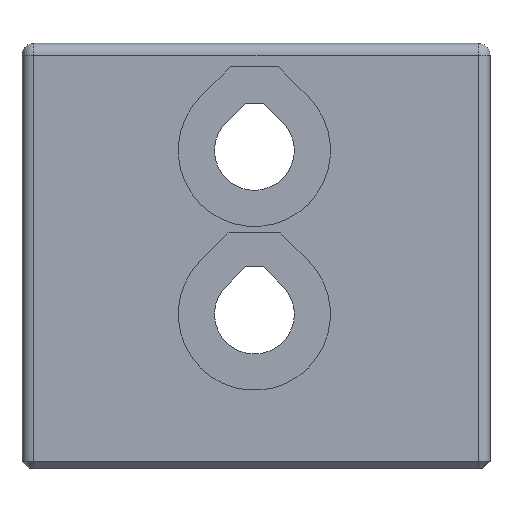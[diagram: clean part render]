
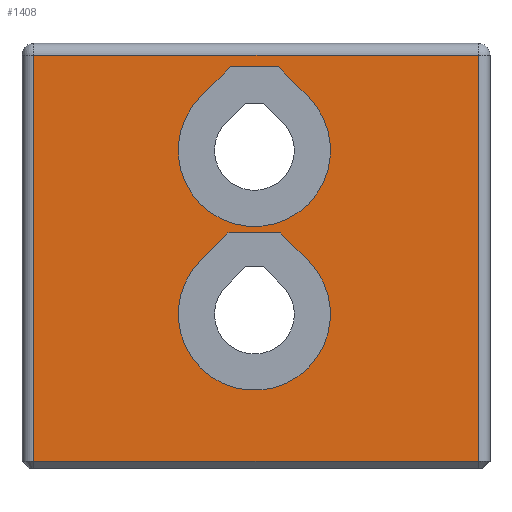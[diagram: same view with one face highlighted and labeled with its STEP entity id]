
A CAD part, left-side view. The second image highlights one B-rep face of the part: STEP entity #1408.
In plain terms, the highlighted planar face has unit normal (-1, 0, 0).
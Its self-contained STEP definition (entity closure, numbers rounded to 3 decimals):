
#53=FACE_BOUND('',#247,.T.);
#54=FACE_BOUND('',#248,.T.);
#83=PLANE('',#1543);
#156=FACE_OUTER_BOUND('',#246,.T.);
#246=EDGE_LOOP('',(#1161,#1162,#1163,#1164));
#247=EDGE_LOOP('',(#1165,#1166,#1167,#1168));
#248=EDGE_LOOP('',(#1169,#1170,#1171,#1172));
#377=LINE('',#2426,#519);
#378=LINE('',#2431,#520);
#379=LINE('',#2435,#521);
#380=LINE('',#2436,#522);
#381=LINE('',#2439,#523);
#382=LINE('',#2441,#524);
#383=LINE('',#2443,#525);
#384=LINE('',#2447,#526);
#385=LINE('',#2449,#527);
#386=LINE('',#2451,#528);
#519=VECTOR('',#1847,10.);
#520=VECTOR('',#1854,10.);
#521=VECTOR('',#1859,10.);
#522=VECTOR('',#1860,10.);
#523=VECTOR('',#1861,10.);
#524=VECTOR('',#1862,10.);
#525=VECTOR('',#1863,10.);
#526=VECTOR('',#1866,10.);
#527=VECTOR('',#1867,10.);
#528=VECTOR('',#1868,10.);
#608=CIRCLE('',#1544,3.251);
#609=CIRCLE('',#1545,3.251);
#701=VERTEX_POINT('',#2420);
#702=VERTEX_POINT('',#2424);
#703=VERTEX_POINT('',#2430);
#704=VERTEX_POINT('',#2434);
#705=VERTEX_POINT('',#2437);
#706=VERTEX_POINT('',#2438);
#707=VERTEX_POINT('',#2440);
#708=VERTEX_POINT('',#2442);
#709=VERTEX_POINT('',#2445);
#710=VERTEX_POINT('',#2446);
#711=VERTEX_POINT('',#2448);
#712=VERTEX_POINT('',#2450);
#872=EDGE_CURVE('',#702,#701,#377,.T.);
#874=EDGE_CURVE('',#701,#703,#378,.T.);
#876=EDGE_CURVE('',#704,#702,#379,.T.);
#877=EDGE_CURVE('',#704,#703,#380,.T.);
#878=EDGE_CURVE('',#705,#706,#381,.T.);
#879=EDGE_CURVE('',#706,#707,#382,.F.);
#880=EDGE_CURVE('',#707,#708,#383,.T.);
#881=EDGE_CURVE('',#708,#705,#608,.T.);
#882=EDGE_CURVE('',#709,#710,#384,.T.);
#883=EDGE_CURVE('',#710,#711,#385,.T.);
#884=EDGE_CURVE('',#711,#712,#386,.T.);
#885=EDGE_CURVE('',#712,#709,#609,.T.);
#1161=ORIENTED_EDGE('',*,*,#872,.F.);
#1162=ORIENTED_EDGE('',*,*,#876,.F.);
#1163=ORIENTED_EDGE('',*,*,#877,.T.);
#1164=ORIENTED_EDGE('',*,*,#874,.F.);
#1165=ORIENTED_EDGE('',*,*,#878,.T.);
#1166=ORIENTED_EDGE('',*,*,#879,.T.);
#1167=ORIENTED_EDGE('',*,*,#880,.T.);
#1168=ORIENTED_EDGE('',*,*,#881,.T.);
#1169=ORIENTED_EDGE('',*,*,#882,.T.);
#1170=ORIENTED_EDGE('',*,*,#883,.T.);
#1171=ORIENTED_EDGE('',*,*,#884,.T.);
#1172=ORIENTED_EDGE('',*,*,#885,.T.);
#1408=ADVANCED_FACE('',(#156,#53,#54),#83,.F.);
#1543=AXIS2_PLACEMENT_3D('',#2433,#1857,#1858);
#1544=AXIS2_PLACEMENT_3D('',#2444,#1864,#1865);
#1545=AXIS2_PLACEMENT_3D('',#2452,#1869,#1870);
#1847=DIRECTION('',(0.,1.,0.));
#1854=DIRECTION('',(0.,0.,1.));
#1857=DIRECTION('center_axis',(1.,0.,0.));
#1858=DIRECTION('ref_axis',(0.,0.,-1.));
#1859=DIRECTION('',(0.,0.,-1.));
#1860=DIRECTION('',(0.,1.,0.));
#1861=DIRECTION('',(0.,-0.707,0.707));
#1862=DIRECTION('',(0.,1.,0.));
#1863=DIRECTION('',(0.,-0.707,-0.707));
#1864=DIRECTION('center_axis',(1.,0.,0.));
#1865=DIRECTION('ref_axis',(0.,1.,0.));
#1866=DIRECTION('',(0.,-0.707,0.707));
#1867=DIRECTION('',(0.,-1.,0.));
#1868=DIRECTION('',(0.,-0.707,-0.707));
#1869=DIRECTION('center_axis',(1.,0.,0.));
#1870=DIRECTION('ref_axis',(0.,1.,0.));
#2420=CARTESIAN_POINT('',(-29.3,9.5,-769.129));
#2424=CARTESIAN_POINT('',(-29.3,-9.5,-769.129));
#2426=CARTESIAN_POINT('',(-29.3,2.5,-769.129));
#2430=CARTESIAN_POINT('',(-29.3,9.5,-751.772));
#2431=CARTESIAN_POINT('',(-29.3,9.5,-764.742));
#2433=CARTESIAN_POINT('Origin',(-29.3,0.,-767.358));
#2434=CARTESIAN_POINT('',(-29.3,-9.5,-751.772));
#2435=CARTESIAN_POINT('',(-29.3,-9.5,-764.742));
#2436=CARTESIAN_POINT('',(-29.3,7.,-751.772));
#2437=CARTESIAN_POINT('',(-29.3,2.369,-760.549));
#2438=CARTESIAN_POINT('',(-29.3,1.197,-759.377));
#2439=CARTESIAN_POINT('',(-29.3,3.479,-761.659));
#2440=CARTESIAN_POINT('',(-29.3,-1.057,-759.377));
#2441=CARTESIAN_POINT('',(-29.3,0.548,-759.377));
#2442=CARTESIAN_POINT('',(-29.3,-2.229,-760.549));
#2443=CARTESIAN_POINT('',(-29.3,-2.738,-761.058));
#2444=CARTESIAN_POINT('Origin',(-29.3,0.07,-762.848));
#2445=CARTESIAN_POINT('',(-29.3,2.369,-753.549));
#2446=CARTESIAN_POINT('',(-29.3,1.097,-752.277));
#2447=CARTESIAN_POINT('',(-29.3,5.229,-756.409));
#2448=CARTESIAN_POINT('',(-29.3,-0.957,-752.277));
#2449=CARTESIAN_POINT('',(-29.3,0.548,-752.277));
#2450=CARTESIAN_POINT('',(-29.3,-2.229,-753.549));
#2451=CARTESIAN_POINT('',(-29.3,-4.488,-755.808));
#2452=CARTESIAN_POINT('Origin',(-29.3,0.07,-755.848));
